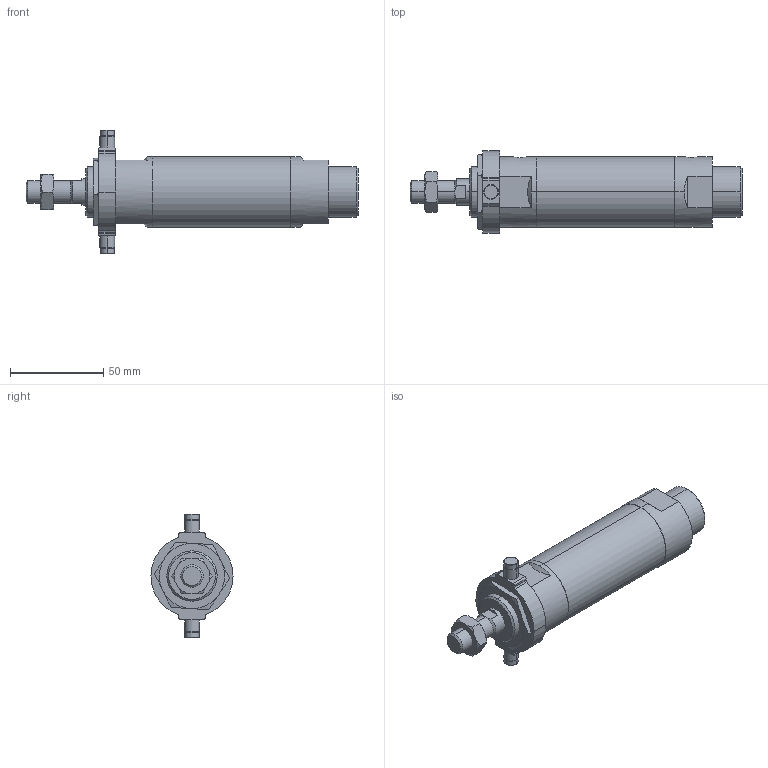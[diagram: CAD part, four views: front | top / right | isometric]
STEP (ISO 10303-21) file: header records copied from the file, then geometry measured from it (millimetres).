
FILE_DESCRIPTION (( 'STEP AP203' ), '1' );
FILE_NAME ('J#2-32-25-T.STEP', '2016-03-08T07:31:33', ( '' ), ( '' ), 'SwSTEP 2.0', 'SolidWorks 2014', '' );
FILE_SCHEMA (( 'CONFIG_CONTROL_DESIGN' ));
Length unit declared in the file: millimetre
Products named in the file (5): J#2-32-25-T; J#2-32-25; J#2-32-T
Assembly tree (4 placements, depth 2):
  J#2-32-25-T
    J#2-32-25
    (unnamed)
    (unnamed)
    J#2-32-T
Bounding box: 178 x 44 x 66 mm (x, y, z)
Volume: 158623.2 mm3; surface area: 28143.9 mm2
Topology: 4 solids, 4 shells, 133 faces, 303 edges, 183 vertices
Faces by surface type: cylinder 43, plane 43, torus 24, cone 23
Entity records: 4649 total; most frequent: CARTESIAN_POINT 1181, DIRECTION 640, ORIENTED_EDGE 598, EDGE_CURVE 299, AXIS2_PLACEMENT_3D 264, VERTEX_POINT 183, EDGE_LOOP 148, ADVANCED_FACE 133
